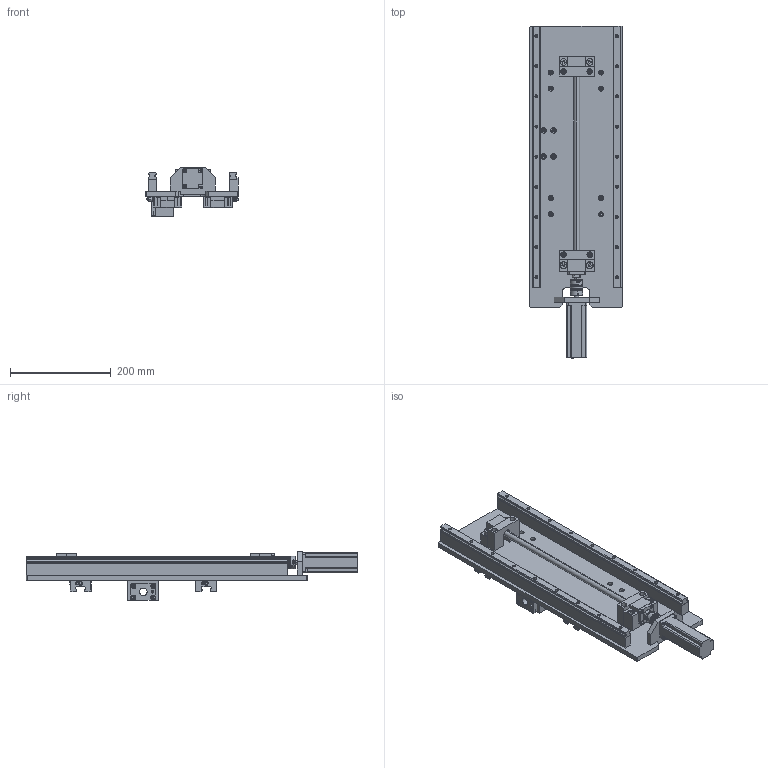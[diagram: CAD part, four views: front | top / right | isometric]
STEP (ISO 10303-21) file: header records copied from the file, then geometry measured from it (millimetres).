
FILE_DESCRIPTION (( 'STEP AP214' ), '1' );
FILE_NAME ('No000031_X.STEP', '2020-07-20T10:24:46', ( '' ), ( '' ), 'SwSTEP 2.0', 'SolidWorks 2017', '' );
FILE_SCHEMA (( 'AUTOMOTIVE_DESIGN' ));
Length unit declared in the file: millimetre
Products named in the file (37): No000031_X; 0031_306_SCB3-12; NEZI-1_CPDW25-8-8; 0031_012_SV2R-MX24-520-WC; 0031_005_BSS1505-500; 0031_304_SCB6-25; RAIL_0031_012_SV2R-MX24-520-WC; 0031_310_SCB6-12; 0031_015_BSS1205-450; BEARING_BUN10; 0031_308_SCB4-15; BLOCK_0031_003_SV2R-MX28-640-WC; BODY_CPDW25-8-8; 0031_302_SCB5-12; COLLAR_BSW10S; 0031_204_Motor_Bracket; 0031_013_BSW10S; _0031_SA02; NAT-1_0031_005_BSS1505-500; HOUSING_BSW10S; 0031_303_SCB8-30; 0031_017_BSTS10; _0031_SA01; HOUSING_BUN10; 0031_011_ABETE24-520-24; 0031_003_SV2R-MX28-640-WC; 0031_312_SCB5-10; 0031_311_SCB3-15; 0031_007_BNFA1505S-23; 0031_010_ABETA24-520-24; 0031_014_BUN10; 0031_102_Motor_MAMA012P1AA; NAT_BSW10S; 0031_018_CPDW25-8-8; SHAFT_BSS1205-450; 0031_203_Plate; 0031_313_SCB5-20
Assembly tree (57 placements, depth 4):
  No000031_X
    _0031_SA01
      0031_003_SV2R-MX28-640-WC  x2
        BLOCK_0031_003_SV2R-MX28-640-WC
      0031_005_BSS1505-500
        NAT-1_0031_005_BSS1505-500
      0031_007_BNFA1505S-23
      0031_312_SCB5-10  x4
    _0031_SA02
      0031_010_ABETA24-520-24
      0031_011_ABETE24-520-24
      0031_012_SV2R-MX24-520-WC  x2
        RAIL_0031_012_SV2R-MX24-520-WC
      0031_013_BSW10S
        HOUSING_BSW10S
        COLLAR_BSW10S  x2
        NAT_BSW10S
      0031_014_BUN10
        HOUSING_BUN10
        BEARING_BUN10
      0031_015_BSS1205-450
        SHAFT_BSS1205-450
      0031_017_BSTS10  x2
      0031_018_CPDW25-8-8
        BODY_CPDW25-8-8
        NEZI-1_CPDW25-8-8  x4
      0031_102_Motor_MAMA012P1AA
      0031_203_Plate
      0031_204_Motor_Bracket
      0031_302_SCB5-12  x2
      0031_303_SCB8-30  x4
      0031_304_SCB6-25  x4
      0031_306_SCB3-12  x2
      0031_308_SCB4-15  x2
      0031_310_SCB6-12
      0031_311_SCB3-15
      0031_313_SCB5-20  x2
Bounding box: 185.24 x 660.5 x 97 mm (x, y, z)
Volume: 2275283.1 mm3; surface area: 581606.8 mm2
Topology: 49 solids, 49 shells, 2343 faces, 5861 edges, 3688 vertices
Faces by surface type: plane 1244, cylinder 739, cone 330, torus 26, sphere 4
Entity records: 44156 total; most frequent: CARTESIAN_POINT 7751, DIRECTION 7444, ORIENTED_EDGE 6596, EDGE_CURVE 3298, AXIS2_PLACEMENT_3D 2797, VERTEX_POINT 2130, LINE 1850, VECTOR 1850
